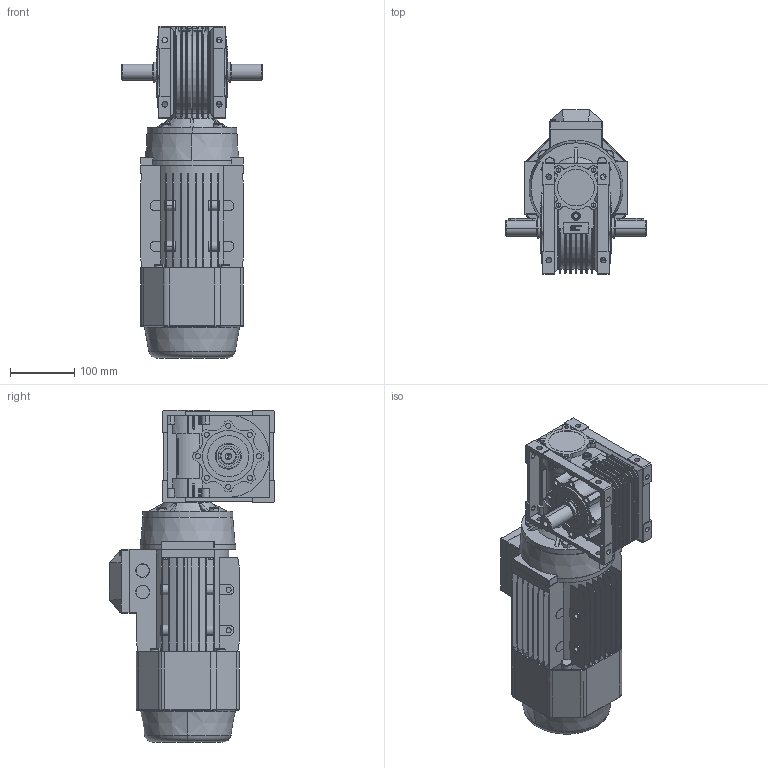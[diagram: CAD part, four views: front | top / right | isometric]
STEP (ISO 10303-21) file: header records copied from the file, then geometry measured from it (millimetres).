
FILE_DESCRIPTION (( 'STEP AP214' ), '1' );
FILE_NAME ('STP_NMRV063_双向输出轴_25_90B14_无_90S_YEJ_1_无_无结构附件_无或C1或C2_无_无.step', '2023-06-17T05:37:28', ( 'Windows 用户' ), ( '' ), 'SwSTEP 2.0', 'SolidWorks 2016', '' );
FILE_SCHEMA (( 'AUTOMOTIVE_DESIGN' ));
Length unit declared in the file: millimetre
Products named in the file (3): STP_NMRV063_双向输出轴_25_90B14_无_90S_YEJ_1_无_无结构附件_无或C1或C2_无_无_NMRV_NMRV063; STP_NMRV063_双向输出轴_25_90B14_无_90S_YEJ_1_无_无结构附件_无或C1或C2_无_无_IEC电机_YEJ-1.1-4P; STP_NMRV063_双向输出轴_25_90B14_无_90S_YEJ_1_无_无结构附件_无或C1或C2_无_无
Assembly tree (2 placements, depth 2):
  STP_NMRV063_双向输出轴_25_90B14_无_90S_YEJ_1_无_无结构附件_无或C1或C2_无_无
    STP_NMRV063_双向输出轴_25_90B14_无_90S_YEJ_1_无_无结构附件_无或C1或C2_无_无_NMRV_NMRV063
    STP_NMRV063_双向输出轴_25_90B14_无_90S_YEJ_1_无_无结构附件_无或C1或C2_无_无_IEC电机_YEJ-1.1-4P
Bounding box: 219 x 257 x 517 mm (x, y, z)
Volume: 7568568.9 mm3; surface area: 868713.2 mm2
Topology: 5 solids, 5 shells, 3052 faces, 8057 edges, 5128 vertices
Faces by surface type: plane 1617, cylinder 706, bspline 435, sphere 135, torus 96, cone 63
Entity records: 115145 total; most frequent: CARTESIAN_POINT 40529, ORIENTED_EDGE 15944, DIRECTION 13854, EDGE_CURVE 7972, VERTEX_POINT 5126, LINE 5098, VECTOR 5098, AXIS2_PLACEMENT_3D 4378
